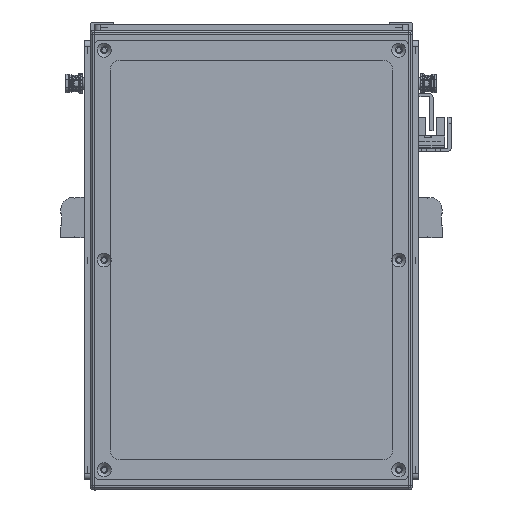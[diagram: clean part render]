
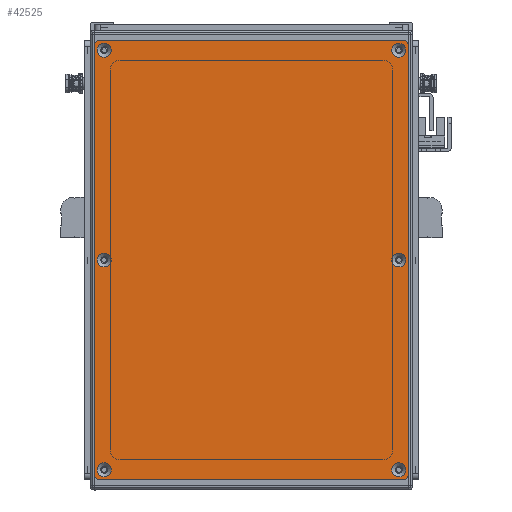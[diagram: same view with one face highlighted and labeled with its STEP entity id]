
A CAD part, front view. The second image highlights one B-rep face of the part: STEP entity #42525.
In plain terms, the highlighted planar face has unit normal (0, -1, 0).
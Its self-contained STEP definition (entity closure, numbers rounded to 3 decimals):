
#2429=FACE_BOUND('',#11430,.T.);
#2430=FACE_BOUND('',#11431,.T.);
#2431=FACE_BOUND('',#11432,.T.);
#2432=FACE_BOUND('',#11433,.T.);
#2433=FACE_BOUND('',#11434,.T.);
#2434=FACE_BOUND('',#11435,.T.);
#3408=PLANE('',#47390);
#8925=FACE_OUTER_BOUND('',#11429,.T.);
#11429=EDGE_LOOP('',(#39461,#39462,#39463,#39464,#39465,#39466,#39467,#39468));
#11430=EDGE_LOOP('',(#39469));
#11431=EDGE_LOOP('',(#39470));
#11432=EDGE_LOOP('',(#39471));
#11433=EDGE_LOOP('',(#39472));
#11434=EDGE_LOOP('',(#39473));
#11435=EDGE_LOOP('',(#39474));
#14534=LINE('',#74601,#17616);
#14535=LINE('',#74605,#17617);
#14536=LINE('',#74609,#17618);
#14537=LINE('',#74612,#17619);
#17616=VECTOR('',#58997,10.);
#17617=VECTOR('',#59000,10.);
#17618=VECTOR('',#59003,10.);
#17619=VECTOR('',#59006,10.);
#19781=CIRCLE('',#47358,3.45);
#19784=CIRCLE('',#47363,3.45);
#19787=CIRCLE('',#47368,3.45);
#19790=CIRCLE('',#47373,3.45);
#19793=CIRCLE('',#47378,3.45);
#19796=CIRCLE('',#47383,3.45);
#19799=CIRCLE('',#47388,3.);
#19801=CIRCLE('',#47391,3.);
#19802=CIRCLE('',#47392,3.);
#19803=CIRCLE('',#47393,3.);
#23390=VERTEX_POINT('',#74531);
#23393=VERTEX_POINT('',#74541);
#23396=VERTEX_POINT('',#74551);
#23399=VERTEX_POINT('',#74561);
#23402=VERTEX_POINT('',#74571);
#23405=VERTEX_POINT('',#74581);
#23408=VERTEX_POINT('',#74591);
#23409=VERTEX_POINT('',#74592);
#23412=VERTEX_POINT('',#74600);
#23413=VERTEX_POINT('',#74602);
#23414=VERTEX_POINT('',#74604);
#23415=VERTEX_POINT('',#74606);
#23416=VERTEX_POINT('',#74608);
#23417=VERTEX_POINT('',#74610);
#28777=EDGE_CURVE('',#23390,#23390,#19781,.T.);
#28782=EDGE_CURVE('',#23393,#23393,#19784,.T.);
#28787=EDGE_CURVE('',#23396,#23396,#19787,.T.);
#28792=EDGE_CURVE('',#23399,#23399,#19790,.T.);
#28797=EDGE_CURVE('',#23402,#23402,#19793,.T.);
#28802=EDGE_CURVE('',#23405,#23405,#19796,.T.);
#28807=EDGE_CURVE('',#23408,#23409,#19799,.T.);
#28811=EDGE_CURVE('',#23408,#23412,#14534,.T.);
#28812=EDGE_CURVE('',#23413,#23412,#19801,.T.);
#28813=EDGE_CURVE('',#23413,#23414,#14535,.T.);
#28814=EDGE_CURVE('',#23415,#23414,#19802,.T.);
#28815=EDGE_CURVE('',#23415,#23416,#14536,.T.);
#28816=EDGE_CURVE('',#23417,#23416,#19803,.T.);
#28817=EDGE_CURVE('',#23417,#23409,#14537,.T.);
#39461=ORIENTED_EDGE('',*,*,#28807,.F.);
#39462=ORIENTED_EDGE('',*,*,#28811,.T.);
#39463=ORIENTED_EDGE('',*,*,#28812,.F.);
#39464=ORIENTED_EDGE('',*,*,#28813,.T.);
#39465=ORIENTED_EDGE('',*,*,#28814,.F.);
#39466=ORIENTED_EDGE('',*,*,#28815,.T.);
#39467=ORIENTED_EDGE('',*,*,#28816,.F.);
#39468=ORIENTED_EDGE('',*,*,#28817,.T.);
#39469=ORIENTED_EDGE('',*,*,#28777,.T.);
#39470=ORIENTED_EDGE('',*,*,#28782,.T.);
#39471=ORIENTED_EDGE('',*,*,#28787,.T.);
#39472=ORIENTED_EDGE('',*,*,#28792,.T.);
#39473=ORIENTED_EDGE('',*,*,#28797,.T.);
#39474=ORIENTED_EDGE('',*,*,#28802,.T.);
#42525=ADVANCED_FACE('',(#8925,#2429,#2430,#2431,#2432,#2433,#2434),#3408,
 .T.);
#47358=AXIS2_PLACEMENT_3D('',#74532,#58917,#58918);
#47363=AXIS2_PLACEMENT_3D('',#74542,#58929,#58930);
#47368=AXIS2_PLACEMENT_3D('',#74552,#58941,#58942);
#47373=AXIS2_PLACEMENT_3D('',#74562,#58953,#58954);
#47378=AXIS2_PLACEMENT_3D('',#74572,#58965,#58966);
#47383=AXIS2_PLACEMENT_3D('',#74582,#58977,#58978);
#47388=AXIS2_PLACEMENT_3D('',#74593,#58989,#58990);
#47390=AXIS2_PLACEMENT_3D('',#74599,#58995,#58996);
#47391=AXIS2_PLACEMENT_3D('',#74603,#58998,#58999);
#47392=AXIS2_PLACEMENT_3D('',#74607,#59001,#59002);
#47393=AXIS2_PLACEMENT_3D('',#74611,#59004,#59005);
#58917=DIRECTION('center_axis',(0.,1.,0.));
#58918=DIRECTION('ref_axis',(1.,0.,0.));
#58929=DIRECTION('center_axis',(0.,1.,0.));
#58930=DIRECTION('ref_axis',(1.,0.,0.));
#58941=DIRECTION('center_axis',(0.,1.,0.));
#58942=DIRECTION('ref_axis',(1.,0.,0.));
#58953=DIRECTION('center_axis',(0.,1.,0.));
#58954=DIRECTION('ref_axis',(1.,0.,0.));
#58965=DIRECTION('center_axis',(0.,1.,0.));
#58966=DIRECTION('ref_axis',(1.,0.,0.));
#58977=DIRECTION('center_axis',(0.,1.,0.));
#58978=DIRECTION('ref_axis',(1.,0.,0.));
#58989=DIRECTION('center_axis',(0.,1.,0.));
#58990=DIRECTION('ref_axis',(-0.707,0.,0.707));
#58995=DIRECTION('center_axis',(0.,-1.,0.));
#58996=DIRECTION('ref_axis',(0.,0.,-1.));
#58997=DIRECTION('',(0.,0.,-1.));
#58998=DIRECTION('center_axis',(0.,1.,0.));
#58999=DIRECTION('ref_axis',(-0.707,0.,-0.707));
#59000=DIRECTION('',(1.,0.,0.));
#59001=DIRECTION('center_axis',(0.,1.,0.));
#59002=DIRECTION('ref_axis',(0.707,0.,-0.707));
#59003=DIRECTION('',(0.,0.,1.));
#59004=DIRECTION('center_axis',(0.,1.,0.));
#59005=DIRECTION('ref_axis',(0.707,0.,0.707));
#59006=DIRECTION('',(-1.,0.,0.));
#74531=CARTESIAN_POINT('',(100.55,-1.5,73.));
#74532=CARTESIAN_POINT('Origin',(104.,-1.5,73.));
#74541=CARTESIAN_POINT('',(-107.45,-1.5,-73.));
#74542=CARTESIAN_POINT('Origin',(-104.,-1.5,-73.));
#74551=CARTESIAN_POINT('',(-3.45,-1.5,73.));
#74552=CARTESIAN_POINT('Origin',(0.,-1.5,73.));
#74561=CARTESIAN_POINT('',(-3.45,-1.5,-73.));
#74562=CARTESIAN_POINT('Origin',(0.,-1.5,-73.));
#74571=CARTESIAN_POINT('',(-107.45,-1.5,73.));
#74572=CARTESIAN_POINT('Origin',(-104.,-1.5,73.));
#74581=CARTESIAN_POINT('',(100.55,-1.5,-73.));
#74582=CARTESIAN_POINT('Origin',(104.,-1.5,-73.));
#74591=CARTESIAN_POINT('',(-109.,-1.5,75.));
#74592=CARTESIAN_POINT('',(-106.,-1.5,78.));
#74593=CARTESIAN_POINT('Origin',(-106.,-1.5,75.));
#74599=CARTESIAN_POINT('Origin',(0.,-1.5,0.));
#74600=CARTESIAN_POINT('',(-109.,-1.5,-75.));
#74601=CARTESIAN_POINT('',(-109.,-1.5,78.));
#74602=CARTESIAN_POINT('',(-106.,-1.5,-78.));
#74603=CARTESIAN_POINT('Origin',(-106.,-1.5,-75.));
#74604=CARTESIAN_POINT('',(106.,-1.5,-78.));
#74605=CARTESIAN_POINT('',(-109.,-1.5,-78.));
#74606=CARTESIAN_POINT('',(109.,-1.5,-75.));
#74607=CARTESIAN_POINT('Origin',(106.,-1.5,-75.));
#74608=CARTESIAN_POINT('',(109.,-1.5,75.));
#74609=CARTESIAN_POINT('',(109.,-1.5,-78.));
#74610=CARTESIAN_POINT('',(106.,-1.5,78.));
#74611=CARTESIAN_POINT('Origin',(106.,-1.5,75.));
#74612=CARTESIAN_POINT('',(109.,-1.5,78.));
